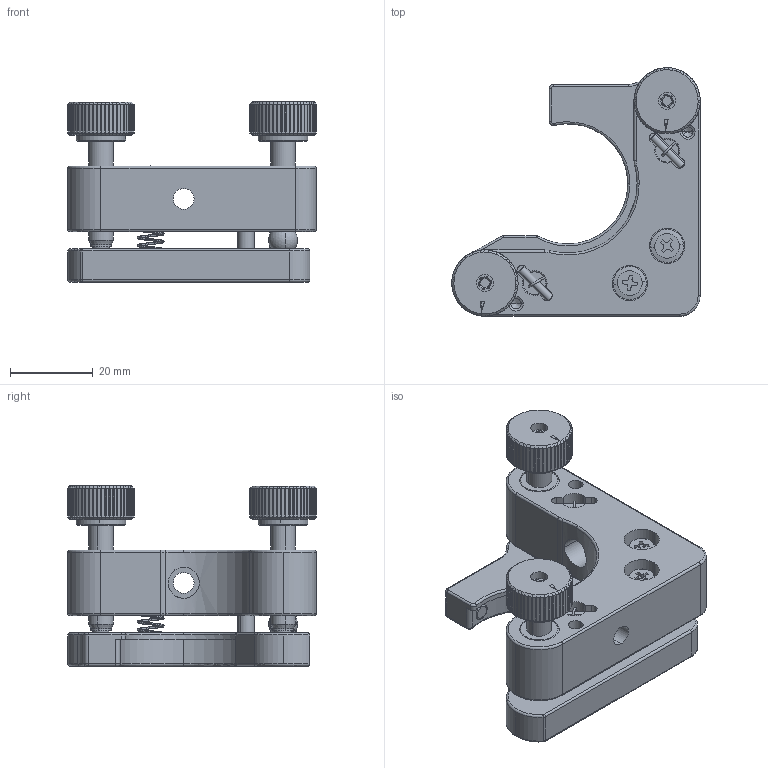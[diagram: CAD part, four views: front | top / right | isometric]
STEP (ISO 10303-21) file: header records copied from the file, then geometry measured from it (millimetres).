
FILE_DESCRIPTION (( 'STEP AP203' ), '1' );
FILE_NAME ('M-TNC-1.2R-HOX.STEP', '2020-09-03T03:50:27', ( '匠星' ), ( '' ), 'SwSTEP 2.0', 'SolidWorks 2019', '' );
FILE_SCHEMA (( 'CONFIG_CONTROL_DESIGN' ));
Length unit declared in the file: millimetre
Products named in the file (1): M-TNC-1.2R-HOX
Bounding box: 60 x 60 x 43.5 mm (x, y, z)
Surface area: 19527.7 mm2 (no closed solid volume)
Topology: 0 solids, 21 shells, 972 faces, 2465 edges, 1557 vertices
Faces by surface type: cylinder 412, plane 387, torus 85, cone 60, sphere 22, bspline 6
Entity records: 34260 total; most frequent: CARTESIAN_POINT 11266, ORIENTED_EDGE 4850, DIRECTION 4791, EDGE_CURVE 2428, AXIS2_PLACEMENT_3D 1911, VERTEX_POINT 1550, EDGE_LOOP 1054, ADVANCED_FACE 972
